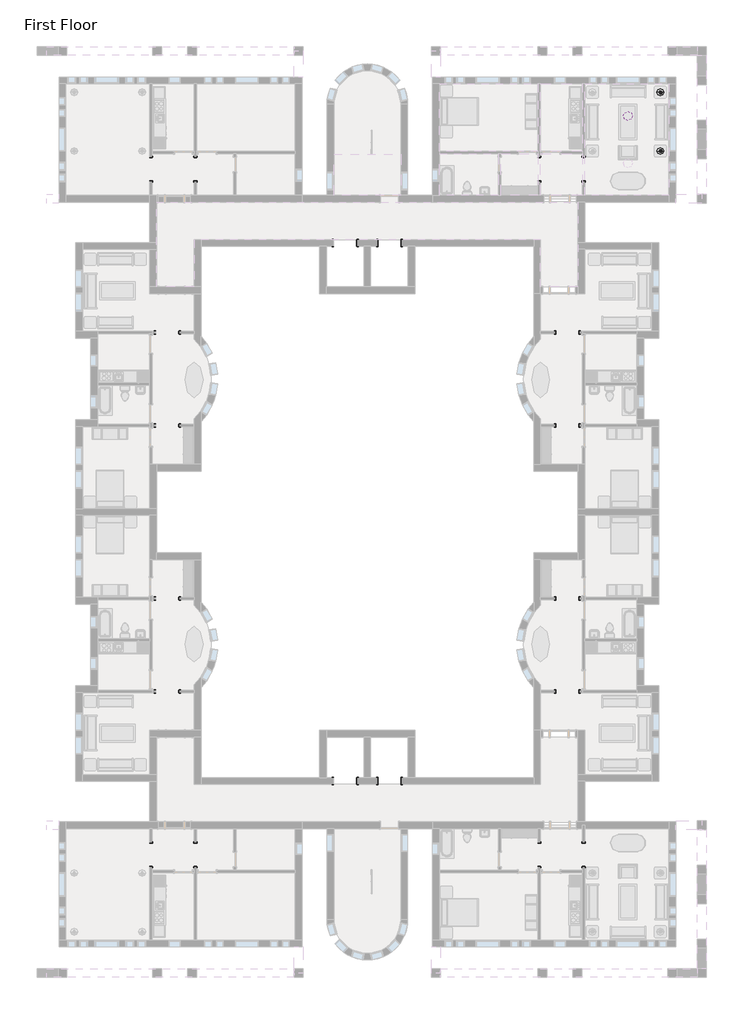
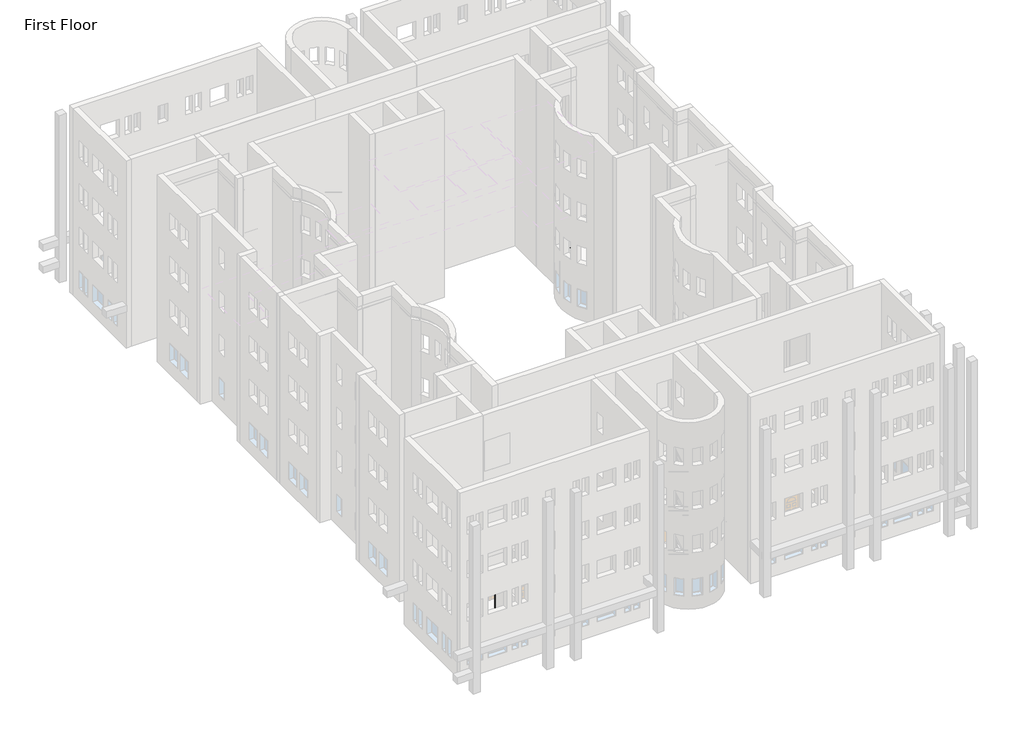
# One storey, part 24 of 24: 20 proxies, 3 light fixtures.
"""IFC4 building model written with IfcOpenShell, lengths in millimetres."""

from ifc_helpers import new_model, si_unit, origin, place, context, project, spatial, transform, mapped, element, save
from components import proxy_f44482cc, proxy_c3589814, proxy_d58c73d0, proxy_1659ed5c, pendant_disk_c68bffb6, table_lamp_1_100_watt_incandescent_6e8cd8b1

model = new_model("IFC4")

# Units and contexts
model_context = context("Model", 3, world=origin())
ifc_project = project(units=[si_unit("LENGTHUNIT", "METRE", prefix="MILLI")], contexts=[model_context])

# Site, building, storey
site = spatial("IfcSite", under=ifc_project)
building = spatial("IfcBuilding", under=site)
storey = spatial("IfcBuildingStorey", under=building, Name="First Floor", Elevation=0.0)

# Proxies
placement = place(None, origin())
proxy_shape = proxy_f44482cc(model_context)
element("IfcBuildingElementProxy", 1, Name="Opening-Cased : 48\" x 84\"", ObjectType="Opening-Cased : 48\" x 84\"", at=placement, inside=storey, context=model_context, shape_type="MappedRepresentation", body=[
    mapped(proxy_shape, transform((-3773.4589563, 5882.4203434, 0.0), x_axis=(0.0, 1.0, 0.0), y_axis=(-1.0, 0.0, 0.0), z_axis=(0.0, 0.0, 1.0))),
])
element("IfcBuildingElementProxy", 2, Name="Opening-Cased : 48\" x 84\"", ObjectType="Opening-Cased : 48\" x 84\"", at=placement, inside=storey, context=model_context, shape_type="MappedRepresentation", body=[
    mapped(proxy_shape, transform((-6059.4589563, 5866.04303, 0.0), x_axis=(0.0, -1.0, 0.0), y_axis=(1.0, 0.0, 0.0), z_axis=(0.0, 0.0, 1.0))),
])
element("IfcBuildingElementProxy", 3, Name="Opening-Cased : 48\" x 84\"", ObjectType="Opening-Cased : 48\" x 84\"", at=placement, inside=storey, context=model_context, shape_type="MappedRepresentation", body=[
    mapped(proxy_shape, transform((-25250.4952996, -7344.8808133, 0.0), x_axis=(1.0, 0.0, 0.0), y_axis=(0.0, 1.0, 0.0), z_axis=(0.0, 0.0, 1.0))),
])
element("IfcBuildingElementProxy", 4, Name="Opening-Cased : 48\" x 84\"", ObjectType="Opening-Cased : 48\" x 84\"", at=placement, inside=storey, context=model_context, shape_type="MappedRepresentation", body=[
    mapped(proxy_shape, transform((-25266.872613, -2547.4558133, 0.0), x_axis=(-1.0, 0.0, 0.0), y_axis=(0.0, -1.0, 0.0), z_axis=(0.0, 0.0, 1.0))),
])
element("IfcBuildingElementProxy", 5, Name="Opening-Cased : 48\" x 84\"", ObjectType="Opening-Cased : 48\" x 84\"", at=placement, inside=storey, context=model_context, shape_type="MappedRepresentation", body=[
    mapped(proxy_shape, transform((-4619.847613, -16263.4558133, 0.0), x_axis=(-1.0, 0.0, 0.0), y_axis=(0.0, -1.0, 0.0), z_axis=(0.0, 0.0, 1.0))),
])
element("IfcBuildingElementProxy", 6, Name="Opening-Cased : 48\" x 84\"", ObjectType="Opening-Cased : 48\" x 84\"", at=placement, inside=storey, context=model_context, shape_type="MappedRepresentation", body=[
    mapped(proxy_shape, transform((-4603.4702996, -21060.8808133, 0.0), x_axis=(1.0, 0.0, 0.0), y_axis=(0.0, 1.0, 0.0), z_axis=(0.0, 0.0, 1.0))),
])
element("IfcBuildingElementProxy", 7, Name="Opening-Cased : 48\" x 84\"", ObjectType="Opening-Cased : 48\" x 84\"", at=placement, inside=storey, context=model_context, shape_type="MappedRepresentation", body=[
    mapped(proxy_shape, transform((-26096.8839563, -29490.75697, 0.0), x_axis=(0.0, -1.0, 0.0), y_axis=(1.0, 0.0, 0.0), z_axis=(0.0, 0.0, 1.0))),
])
element("IfcBuildingElementProxy", 8, Name="Opening-Cased : 48\" x 84\"", ObjectType="Opening-Cased : 48\" x 84\"", at=placement, inside=storey, context=model_context, shape_type="MappedRepresentation", body=[
    mapped(proxy_shape, transform((-23810.8839563, -29474.3796566, 0.0), x_axis=(0.0, 1.0, 0.0), y_axis=(-1.0, 0.0, 0.0), z_axis=(0.0, 0.0, 1.0))),
])
proxy_2_shape = proxy_c3589814(model_context)
element("IfcBuildingElementProxy", 9, Name="Opening-Cased : 48\" x 84\"", ObjectType="Opening-Cased : 48\" x 84\"", at=placement, inside=storey, context=model_context, shape_type="MappedRepresentation", body=[
    mapped(proxy_2_shape, transform((-16086.360113, 2064.2316867, 0.0), x_axis=(-1.0, 0.0, 0.0), y_axis=(0.0, -1.0, 0.0), z_axis=(0.0, 0.0, 1.0))),
])
element("IfcBuildingElementProxy", 10, Name="Opening-Cased : 48\" x 84\"", ObjectType="Opening-Cased : 48\" x 84\"", at=placement, inside=storey, context=model_context, shape_type="MappedRepresentation", body=[
    mapped(proxy_2_shape, transform((-13800.360113, 2064.2316867, 0.0), x_axis=(-1.0, 0.0, 0.0), y_axis=(0.0, -1.0, 0.0), z_axis=(0.0, 0.0, 1.0))),
])
proxy_3_shape = proxy_d58c73d0(model_context)
element("IfcBuildingElementProxy", 11, Name="Opening-Cased : 48\" x 84\"", ObjectType="Opening-Cased : 48\" x 84\"", at=placement, inside=storey, context=model_context, shape_type="MappedRepresentation", body=[
    mapped(proxy_3_shape, transform((-4619.847613, -7344.8808133, 0.0), x_axis=(-1.0, 0.0, 0.0), y_axis=(0.0, -1.0, 0.0), z_axis=(0.0, 0.0, 1.0))),
])
element("IfcBuildingElementProxy", 12, Name="Opening-Cased : 48\" x 84\"", ObjectType="Opening-Cased : 48\" x 84\"", at=placement, inside=storey, context=model_context, shape_type="MappedRepresentation", body=[
    mapped(proxy_3_shape, transform((-4603.4702996, -2547.4558133, 0.0), x_axis=(1.0, 0.0, 0.0), y_axis=(0.0, 1.0, 0.0), z_axis=(0.0, 0.0, 1.0))),
])
element("IfcBuildingElementProxy", 13, Name="Opening-Cased : 48\" x 84\"", ObjectType="Opening-Cased : 48\" x 84\"", at=placement, inside=storey, context=model_context, shape_type="MappedRepresentation", body=[
    mapped(proxy_3_shape, transform((-26096.8839563, 5882.4203434, 0.0), x_axis=(0.0, 1.0, 0.0), y_axis=(-1.0, 0.0, 0.0), z_axis=(0.0, 0.0, 1.0))),
])
element("IfcBuildingElementProxy", 14, Name="Opening-Cased : 48\" x 84\"", ObjectType="Opening-Cased : 48\" x 84\"", at=placement, inside=storey, context=model_context, shape_type="MappedRepresentation", body=[
    mapped(proxy_3_shape, transform((-23810.8839563, 5866.04303, 0.0), x_axis=(0.0, -1.0, 0.0), y_axis=(1.0, 0.0, 0.0), z_axis=(0.0, 0.0, 1.0))),
])
element("IfcBuildingElementProxy", 15, Name="Opening-Cased : 48\" x 84\"", ObjectType="Opening-Cased : 48\" x 84\"", at=placement, inside=storey, context=model_context, shape_type="MappedRepresentation", body=[
    mapped(proxy_3_shape, transform((-3773.4589563, -29490.75697, 0.0), x_axis=(0.0, -1.0, 0.0), y_axis=(1.0, 0.0, 0.0), z_axis=(0.0, 0.0, 1.0))),
])
element("IfcBuildingElementProxy", 16, Name="Opening-Cased : 48\" x 84\"", ObjectType="Opening-Cased : 48\" x 84\"", at=placement, inside=storey, context=model_context, shape_type="MappedRepresentation", body=[
    mapped(proxy_3_shape, transform((-6059.4589563, -29474.3796566, 0.0), x_axis=(0.0, 1.0, 0.0), y_axis=(-1.0, 0.0, 0.0), z_axis=(0.0, 0.0, 1.0))),
])
element("IfcBuildingElementProxy", 17, Name="Opening-Cased : 48\" x 84\"", ObjectType="Opening-Cased : 48\" x 84\"", at=placement, inside=storey, context=model_context, shape_type="MappedRepresentation", body=[
    mapped(proxy_3_shape, transform((-25250.4952996, -16263.4558133, 0.0), x_axis=(1.0, 0.0, 0.0), y_axis=(0.0, 1.0, 0.0), z_axis=(0.0, 0.0, 1.0))),
])
element("IfcBuildingElementProxy", 18, Name="Opening-Cased : 48\" x 84\"", ObjectType="Opening-Cased : 48\" x 84\"", at=placement, inside=storey, context=model_context, shape_type="MappedRepresentation", body=[
    mapped(proxy_3_shape, transform((-25266.872613, -21060.8808133, 0.0), x_axis=(-1.0, 0.0, 0.0), y_axis=(0.0, -1.0, 0.0), z_axis=(0.0, 0.0, 1.0))),
])
proxy_4_shape = proxy_1659ed5c(model_context)
element("IfcBuildingElementProxy", 19, Name="Opening-Cased : 48\" x 84\"", ObjectType="Opening-Cased : 48\" x 84\"", at=placement, inside=storey, context=model_context, shape_type="MappedRepresentation", body=[
    mapped(proxy_4_shape, transform((-16086.360113, -25672.5683133, 0.0), x_axis=(-1.0, 0.0, 0.0), y_axis=(0.0, -1.0, 0.0), z_axis=(0.0, 0.0, 1.0))),
])
element("IfcBuildingElementProxy", 20, Name="Opening-Cased : 48\" x 84\"", ObjectType="Opening-Cased : 48\" x 84\"", at=placement, inside=storey, context=model_context, shape_type="MappedRepresentation", body=[
    mapped(proxy_4_shape, transform((-13800.360113, -25672.5683133, 0.0), x_axis=(-1.0, 0.0, 0.0), y_axis=(0.0, -1.0, 0.0), z_axis=(0.0, 0.0, 1.0))),
])

# Light fixtures
pendant_disk_shape = pendant_disk_c68bffb6(model_context)
element("IfcLightFixture", 21, ObjectType="Pendant - Disk : 150 watt Incandescant", at=placement, inside=storey, context=model_context, shape_type="MappedRepresentation", body=[
    mapped(pendant_disk_shape, transform((-1487.4589563, 8617.4316867, 152.3999938), x_axis=(1.0, 0.0, 0.0), y_axis=(0.0, 1.0, 0.0), z_axis=(0.0, 0.0, 1.0))),
])
table_lamp_1_100_watt_incandescent_shape = table_lamp_1_100_watt_incandescent_6e8cd8b1(model_context)
element("IfcLightFixture", 22, ObjectType="Table Lamp 1 : 100 watt Incandescent", at=placement, inside=storey, context=model_context, shape_type="MappedRepresentation", body=[
    mapped(table_lamp_1_100_watt_incandescent_shape, transform((188.9410437, 6812.4441867, 381.0), x_axis=(1.0, 0.0, 0.0), y_axis=(0.0, 1.0, 0.0), z_axis=(0.0, 0.0, 1.0))),
])
element("IfcLightFixture", 23, ObjectType="Table Lamp 1 : 100 watt Incandescent", at=placement, inside=storey, context=model_context, shape_type="MappedRepresentation", body=[
    mapped(table_lamp_1_100_watt_incandescent_shape, transform((188.9410437, 9836.6316867, 381.0), x_axis=(1.0, 0.0, 0.0), y_axis=(0.0, 1.0, 0.0), z_axis=(0.0, 0.0, 1.0))),
])

save(model, "model.ifc")
